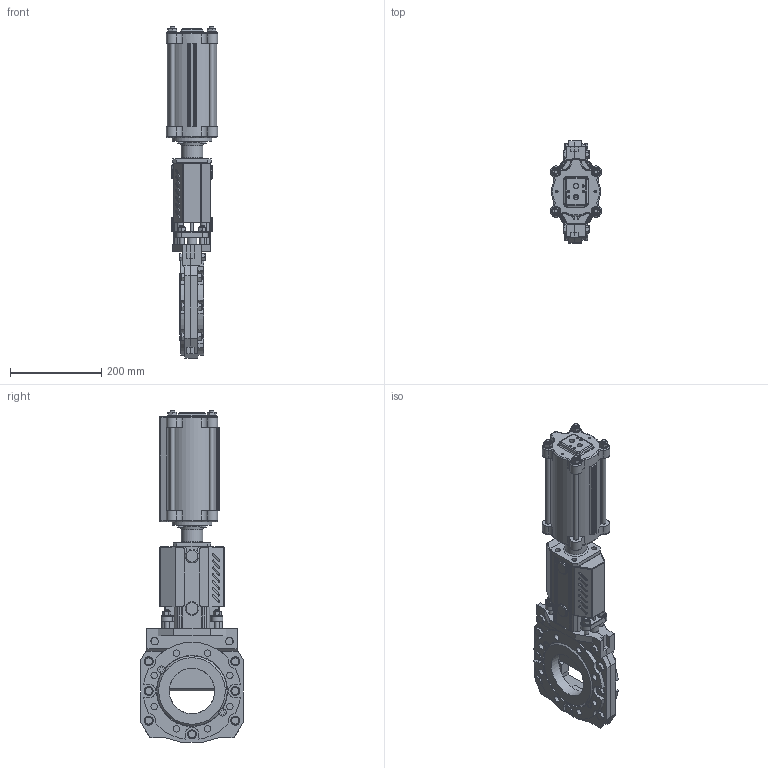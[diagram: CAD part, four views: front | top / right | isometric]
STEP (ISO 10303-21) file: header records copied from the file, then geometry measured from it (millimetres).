
FILE_DESCRIPTION(/* description */ (''),/* implementation_level */ '2;1');
FILE_NAME(/* name */ 'D:\step\DN100\RKO100-SC100-115.stp',/* time_stamp */ '2018-03-26T13:53:21+02:00',/* author */ ('jeseri'),/* organization */ (''),/* preprocessor_version */ 'ST-DEVELOPER v16.13',/* originating_system */ 'Autodesk Inventor 2018',/* authorisation */ '');
FILE_SCHEMA (('AUTOMOTIVE_DESIGN { 1 0 10303 214 3 1 1 }'));
Products named in the file (1): RKO100._Shrinkwrap_1
Bounding box: 112.17 x 224 x 729 mm (x, y, z)
Volume: 3499708.9 mm3; surface area: 920542.8 mm2
Topology: 2 solids, 3 shells, 2047 faces, 4970 edges, 3047 vertices
Faces by surface type: plane 863, cylinder 484, cone 343, bspline 147, torus 144, sphere 66
Full cylindrical faces by diameter (mm): 3 x10, 4 x6, 4.134 x4, 4.917 x4, 6 x5, 8 x7, 8.5 x2, 8.818 x4, 10 x29, 10.106 x1, 10.25 x8, 10.5 x4, 11 x12, 11.445 x2, 13 x4, 14 x17, 14.376 x1, 15 x6, 16 x1, 16.5 x1, 19.715 x4, 19.74 x7, 20 x5, 20.15 x2, 22 x1, 24 x1, 26 x1, 26.4 x1, 27 x3, 30 x4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
Entity records: 63871 total; most frequent: CARTESIAN_POINT 16515, DIRECTION 9505, ORIENTED_EDGE 9132, EDGE_CURVE 4564, AXIS2_PLACEMENT_3D 3826, VERTEX_POINT 2962, EDGE_LOOP 2616, STYLED_ITEM 2049
